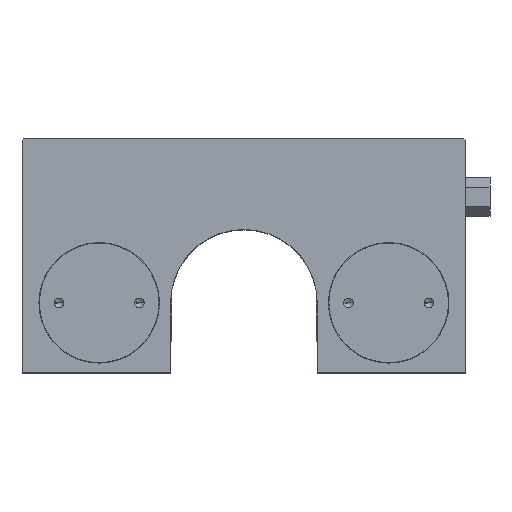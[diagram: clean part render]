
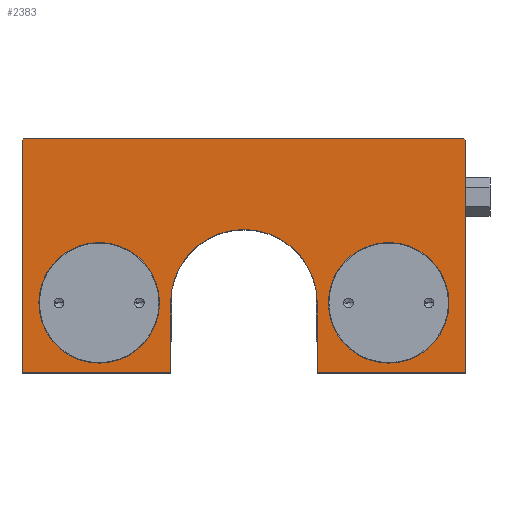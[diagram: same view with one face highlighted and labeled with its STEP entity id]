
A CAD part, top view. The second image highlights one B-rep face of the part: STEP entity #2383.
In plain terms, the highlighted planar face has unit normal (0, 0, 1).
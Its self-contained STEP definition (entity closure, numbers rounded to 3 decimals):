
#1009 = EDGE_CURVE( '', #1475, #2255, #2759, .T. );
#1075 = VERTEX_POINT( '', #2831 );
#1083 = VERTEX_POINT( '', #2839 );
#1143 = VERTEX_POINT( '', #2904 );
#1321 = EDGE_CURVE( '', #2051, #1143, #3103, .T. );
#1341 = EDGE_CURVE( '', #2555, #2051, #3126, .T. );
#1449 = EDGE_CURVE( '', #1523, #1475, #3245, .T. );
#1475 = VERTEX_POINT( '', #3275 );
#1523 = VERTEX_POINT( '', #3330 );
#1561 = EDGE_CURVE( '', #1075, #2341, #3371, .T. );
#1571 = EDGE_CURVE( '', #2047, #2059, #3381, .T. );
#1719 = EDGE_CURVE( '', #2255, #2089, #3564, .T. );
#1929 = EDGE_CURVE( '', #1083, #2555, #3797, .T. );
#1941 = EDGE_CURVE( '', #1143, #2465, #3811, .T. );
#1981 = EDGE_CURVE( '', #2465, #1523, #3858, .T. );
#2013 = EDGE_CURVE( '', #2137, #1083, #3897, .T. );
#2047 = VERTEX_POINT( '', #3937 );
#2051 = VERTEX_POINT( '', #3941 );
#2059 = VERTEX_POINT( '', #3949 );
#2089 = VERTEX_POINT( '', #3979 );
#2137 = VERTEX_POINT( '', #4031 );
#2167 = EDGE_CURVE( '', #2059, #2047, #4065, .T. );
#2189 = EDGE_CURVE( '', #2341, #1075, #4091, .T. );
#2255 = VERTEX_POINT( '', #4169 );
#2301 = EDGE_CURVE( '', #2089, #2137, #4218, .T. );
#2341 = VERTEX_POINT( '', #4265 );
#2383 = ADVANCED_FACE( '', ( #4309, #4310, #4311 ), #4312, .F. );
#2465 = VERTEX_POINT( '', #4402 );
#2555 = VERTEX_POINT( '', #4504 );
#2759 = LINE( '', #4755, #4756 );
#2831 = CARTESIAN_POINT( '', ( 42.5, 14.5, 24.25 ) );
#2839 = CARTESIAN_POINT( '', ( 15.2, 14.5, 24.25 ) );
#2904 = CARTESIAN_POINT( '', ( -46., 0., 24.25 ) );
#3103 = LINE( '', #5305, #5306 );
#3126 = LINE( '', #5334, #5335 );
#3245 = LINE( '', #5502, #5503 );
#3275 = CARTESIAN_POINT( '', ( 45.6, 48.5, 24.25 ) );
#3330 = CARTESIAN_POINT( '', ( -45.6, 48.5, 24.25 ) );
#3371 = CIRCLE( '', #5697, 12.5 );
#3381 = CIRCLE( '', #5748, 12.5 );
#3564 = LINE( '', #5980, #5981 );
#3797 = CIRCLE( '', #6295, 15.2 );
#3811 = LINE( '', #6315, #6316 );
#3858 = LINE( '', #6377, #6378 );
#3897 = LINE( '', #6434, #6435 );
#3937 = CARTESIAN_POINT( '', ( -42.5, 14.5, 24.25 ) );
#3941 = CARTESIAN_POINT( '', ( -15.2, 0., 24.25 ) );
#3949 = CARTESIAN_POINT( '', ( -17.5, 14.5, 24.25 ) );
#3979 = CARTESIAN_POINT( '', ( 46., 0., 24.25 ) );
#4031 = CARTESIAN_POINT( '', ( 15.2, 0., 24.25 ) );
#4065 = CIRCLE( '', #6700, 12.5 );
#4091 = CIRCLE( '', #6735, 12.5 );
#4169 = CARTESIAN_POINT( '', ( 46., 48.1, 24.25 ) );
#4218 = LINE( '', #6914, #6915 );
#4265 = CARTESIAN_POINT( '', ( 17.5, 14.5, 24.25 ) );
#4309 = FACE_BOUND( '', #7039, .T. );
#4310 = FACE_BOUND( '', #7040, .T. );
#4311 = FACE_OUTER_BOUND( '', #7041, .T. );
#4312 = PLANE( '', #7042 );
#4402 = CARTESIAN_POINT( '', ( -46., 48.1, 24.25 ) );
#4504 = CARTESIAN_POINT( '', ( -15.2, 14.5, 24.25 ) );
#4755 = CARTESIAN_POINT( '', ( 45.6, 48.5, 24.25 ) );
#4756 = VECTOR( '', #7543, 1. );
#5305 = CARTESIAN_POINT( '', ( -15.2, 0., 24.25 ) );
#5306 = VECTOR( '', #7890, 1. );
#5334 = CARTESIAN_POINT( '', ( -15.2, 14.5, 24.25 ) );
#5335 = VECTOR( '', #7918, 1. );
#5502 = CARTESIAN_POINT( '', ( -45.6, 48.5, 24.25 ) );
#5503 = VECTOR( '', #8042, 1. );
#5697 = AXIS2_PLACEMENT_3D( '', #8185, #8186, #8187 );
#5748 = AXIS2_PLACEMENT_3D( '', #8191, #8192, #8193 );
#5980 = CARTESIAN_POINT( '', ( 46., 48.1, 24.25 ) );
#5981 = VECTOR( '', #8472, 1. );
#6295 = AXIS2_PLACEMENT_3D( '', #8732, #8733, #8734 );
#6315 = CARTESIAN_POINT( '', ( -46., 0., 24.25 ) );
#6316 = VECTOR( '', #8754, 1. );
#6377 = CARTESIAN_POINT( '', ( -46., 48.1, 24.25 ) );
#6378 = VECTOR( '', #8811, 1. );
#6434 = CARTESIAN_POINT( '', ( 15.2, 0., 24.25 ) );
#6435 = VECTOR( '', #8862, 1. );
#6700 = AXIS2_PLACEMENT_3D( '', #9021, #9022, #9023 );
#6735 = AXIS2_PLACEMENT_3D( '', #9059, #9060, #9061 );
#6914 = CARTESIAN_POINT( '', ( 46., 0., 24.25 ) );
#6915 = VECTOR( '', #9208, 1. );
#7039 = EDGE_LOOP( '', ( #9312, #9313 ) );
#7040 = EDGE_LOOP( '', ( #9314, #9315 ) );
#7041 = EDGE_LOOP( '', ( #9316, #9317, #9318, #9319, #9320, #9321, #9322, #9323, #9324, #9325 ) );
#7042 = AXIS2_PLACEMENT_3D( '', #9326, #9327, #9328 );
#7543 = DIRECTION( '', ( 0.707, -0.707, 0. ) );
#7890 = DIRECTION( '', ( -1., 0., 0. ) );
#7918 = DIRECTION( '', ( 0., -1., 0. ) );
#8042 = DIRECTION( '', ( 1., 0., 0. ) );
#8185 = CARTESIAN_POINT( '', ( 30., 14.5, 24.25 ) );
#8186 = DIRECTION( '', ( 0., 0., -1. ) );
#8187 = DIRECTION( '', ( -1., 0., 0. ) );
#8191 = CARTESIAN_POINT( '', ( -30., 14.5, 24.25 ) );
#8192 = DIRECTION( '', ( 0., 0., -1. ) );
#8193 = DIRECTION( '', ( -1., 0., 0. ) );
#8472 = DIRECTION( '', ( 0., -1., 0. ) );
#8732 = CARTESIAN_POINT( '', ( 0., 14.5, 24.25 ) );
#8733 = DIRECTION( '', ( 0., 0., 1. ) );
#8734 = DIRECTION( '', ( 1., 0., 0. ) );
#8754 = DIRECTION( '', ( 0., 1., 0. ) );
#8811 = DIRECTION( '', ( 0.707, 0.707, 0. ) );
#8862 = DIRECTION( '', ( 0., 1., 0. ) );
#9021 = CARTESIAN_POINT( '', ( -30., 14.5, 24.25 ) );
#9022 = DIRECTION( '', ( 0., 0., -1. ) );
#9023 = DIRECTION( '', ( -1., 0., 0. ) );
#9059 = CARTESIAN_POINT( '', ( 30., 14.5, 24.25 ) );
#9060 = DIRECTION( '', ( 0., 0., -1. ) );
#9061 = DIRECTION( '', ( -1., 0., 0. ) );
#9208 = DIRECTION( '', ( -1., 0., 0. ) );
#9312 = ORIENTED_EDGE( '', *, *, #2167, .T. );
#9313 = ORIENTED_EDGE( '', *, *, #1571, .T. );
#9314 = ORIENTED_EDGE( '', *, *, #1561, .T. );
#9315 = ORIENTED_EDGE( '', *, *, #2189, .T. );
#9316 = ORIENTED_EDGE( '', *, *, #2301, .F. );
#9317 = ORIENTED_EDGE( '', *, *, #1719, .F. );
#9318 = ORIENTED_EDGE( '', *, *, #1009, .F. );
#9319 = ORIENTED_EDGE( '', *, *, #1449, .F. );
#9320 = ORIENTED_EDGE( '', *, *, #1981, .F. );
#9321 = ORIENTED_EDGE( '', *, *, #1941, .F. );
#9322 = ORIENTED_EDGE( '', *, *, #1321, .F. );
#9323 = ORIENTED_EDGE( '', *, *, #1341, .F. );
#9324 = ORIENTED_EDGE( '', *, *, #1929, .F. );
#9325 = ORIENTED_EDGE( '', *, *, #2013, .F. );
#9326 = CARTESIAN_POINT( '', ( 0., 0., 24.25 ) );
#9327 = DIRECTION( '', ( 0., 0., -1. ) );
#9328 = DIRECTION( '', ( -1., 0., 0. ) );
